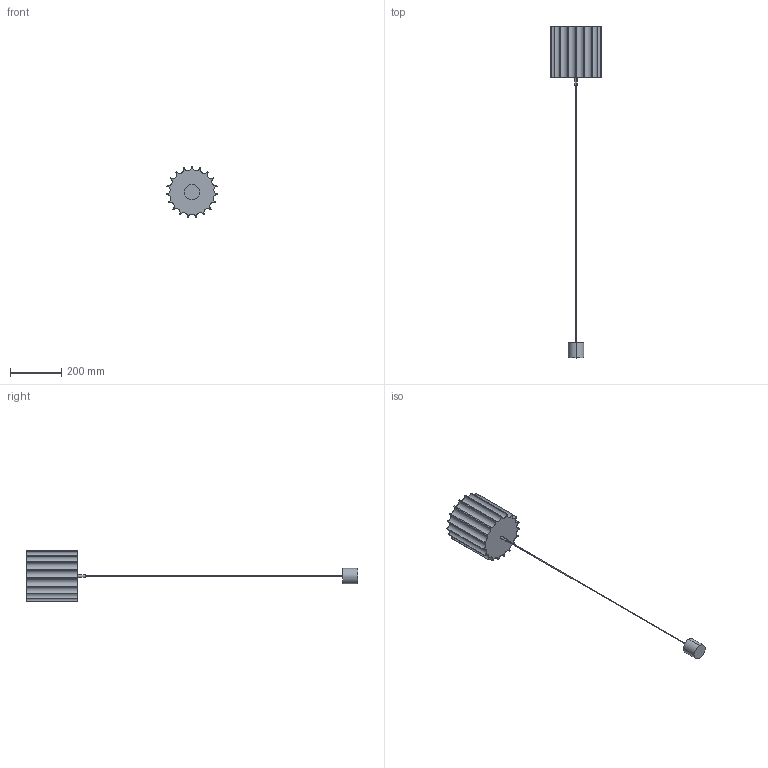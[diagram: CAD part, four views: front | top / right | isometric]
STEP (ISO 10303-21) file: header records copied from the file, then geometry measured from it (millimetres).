
FILE_DESCRIPTION (( 'STEP AP214' ), '1' );
FILE_NAME ('DENA_C1088.STEP', '2024-09-18T07:27:32', ( '' ), ( '' ), 'SwSTEP 2.0', 'SolidWorks 2018', '' );
FILE_SCHEMA (( 'AUTOMOTIVE_DESIGN' ));
Length unit declared in the file: millimetre
Products named in the file (1): DENA_C1088
Bounding box: 199.54 x 1290 x 198.87 mm (x, y, z)
Volume: 1979159 mm3; surface area: 344293.2 mm2
Topology: 4 solids, 4 shells, 68 faces, 175 edges, 116 vertices
Faces by surface type: cylinder 57, plane 9, torus 2
Entity records: 2206 total; most frequent: DIRECTION 431, CARTESIAN_POINT 360, ORIENTED_EDGE 350, AXIS2_PLACEMENT_3D 187, EDGE_CURVE 175, CIRCLE 118, VERTEX_POINT 116, EDGE_LOOP 71
